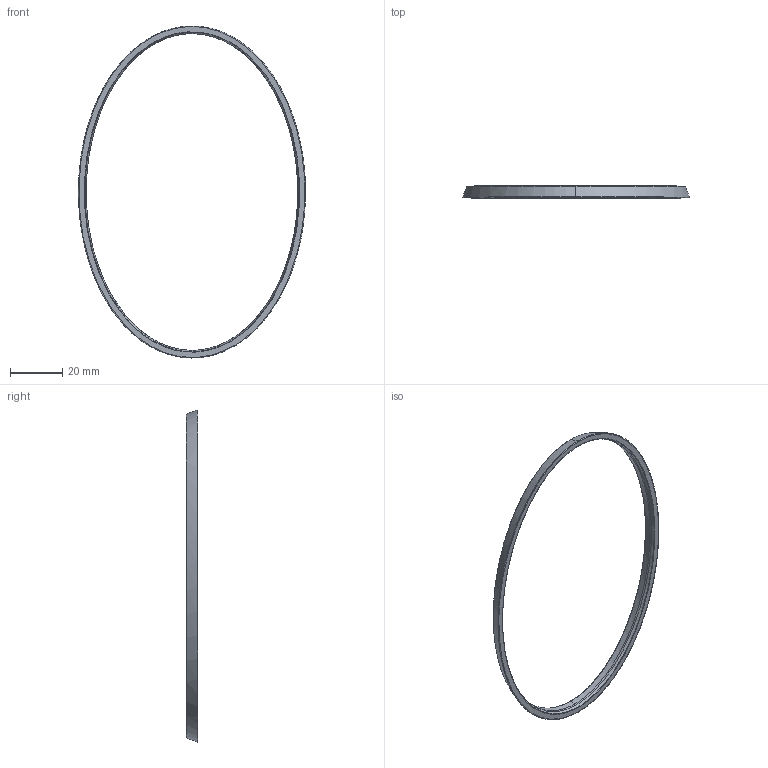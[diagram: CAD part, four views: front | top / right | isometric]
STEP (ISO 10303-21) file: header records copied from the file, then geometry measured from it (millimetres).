
FILE_DESCRIPTION (( 'STEP AP214' ), '1' );
FILE_NAME ('0.4mm Offset Sealing Band.STEP', '2021-05-07T20:31:06', ( '' ), ( '' ), 'SwSTEP 2.0', 'SolidWorks 2020', '' );
FILE_SCHEMA (( 'AUTOMOTIVE_DESIGN' ));
Length unit declared in the file: millimetre
Products named in the file (1): 0.4mm Offset Sealing Band
Bounding box: 86.58 x 4.5 x 126.62 mm (x, y, z)
Volume: 2979 mm3; surface area: 4184.3 mm2
Topology: 1 solids, 1 shells, 33 faces, 92 edges, 61 vertices
Faces by surface type: bspline 23, cylinder 8, plane 2
Entity records: 5336 total; most frequent: CARTESIAN_POINT 4684, ORIENTED_EDGE 184, EDGE_CURVE 92, B_SPLINE_CURVE_WITH_KNOTS 70, VERTEX_POINT 61, DIRECTION 45, EDGE_LOOP 35, ADVANCED_FACE 33
